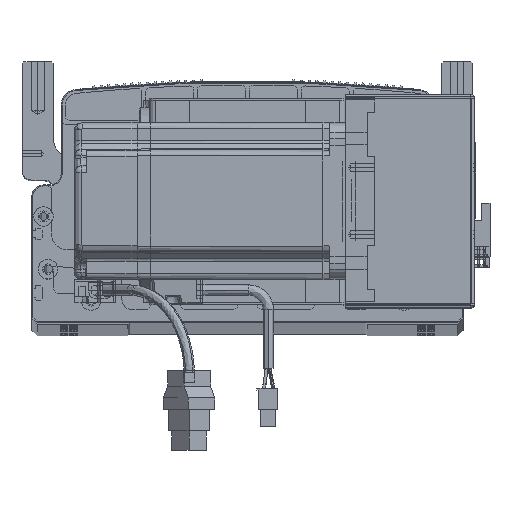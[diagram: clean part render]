
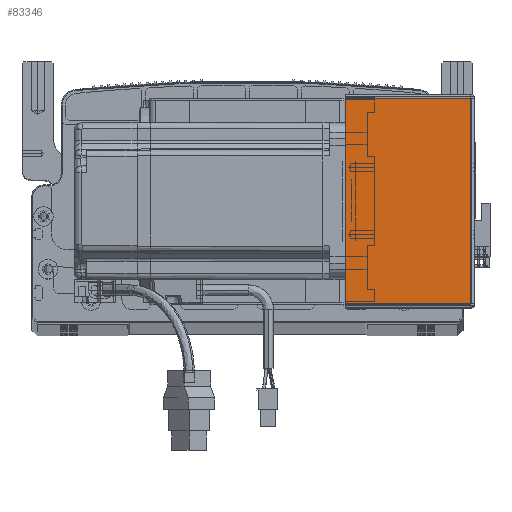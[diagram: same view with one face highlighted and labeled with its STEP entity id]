
A CAD part, top view. The second image highlights one B-rep face of the part: STEP entity #83346.
In plain terms, the highlighted planar face has unit normal (0, 0, 1) as drawn and (0, 0, -1) by its records, which use the part's own axes.
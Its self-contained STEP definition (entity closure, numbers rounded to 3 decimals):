
#1449 = CARTESIAN_POINT ( 'NONE',  ( 64.5, 0.707, -205.5 ) ) ;
#1961 = VECTOR ( 'NONE', #78269, 1000. ) ;
#2019 = EDGE_LOOP ( 'NONE', ( #6741, #19261, #61588, #25781 ) ) ;
#5717 = DIRECTION ( 'NONE',  ( 0., -1., 0. ) ) ;
#6741 = ORIENTED_EDGE ( 'NONE', *, *, #37182, .F. ) ;
#10015 = CARTESIAN_POINT ( 'NONE',  ( 0., 0., -205.5 ) ) ;
#11302 = LINE ( 'NONE', #75741, #81723 ) ;
#14641 = VERTEX_POINT ( 'NONE', #41648 ) ;
#18943 = CARTESIAN_POINT ( 'NONE',  ( 0.737, 0.707, -205.5 ) ) ;
#19261 = ORIENTED_EDGE ( 'NONE', *, *, #100798, .T. ) ;
#25781 = ORIENTED_EDGE ( 'NONE', *, *, #87977, .F. ) ;
#25905 = PLANE ( 'NONE',  #61629 ) ;
#26232 = DIRECTION ( 'NONE',  ( 1., 0., 0. ) ) ;
#34546 = VERTEX_POINT ( 'NONE', #57407 ) ;
#37182 = EDGE_CURVE ( 'NONE', #34546, #47554, #11302, .T. ) ;
#38266 = CARTESIAN_POINT ( 'NONE',  ( 0., 0.707, -205.5 ) ) ;
#41648 = CARTESIAN_POINT ( 'NONE',  ( 64.5, 105.293, -205.5 ) ) ;
#43738 = FACE_OUTER_BOUND ( 'NONE', #2019, .T. ) ;
#47554 = VERTEX_POINT ( 'NONE', #18943 ) ;
#49464 = LINE ( 'NONE', #64798, #54379 ) ;
#54379 = VECTOR ( 'NONE', #79301, 1000. ) ;
#57407 = CARTESIAN_POINT ( 'NONE',  ( 0.737, 105.293, -205.5 ) ) ;
#61588 = ORIENTED_EDGE ( 'NONE', *, *, #85694, .T. ) ;
#61629 = AXIS2_PLACEMENT_3D ( 'NONE', #10015, #81115, #26232 ) ;
#64798 = CARTESIAN_POINT ( 'NONE',  ( 0., 105.293, -205.5 ) ) ;
#70286 = LINE ( 'NONE', #74019, #92497 ) ;
#74019 = CARTESIAN_POINT ( 'NONE',  ( 64.5, 0., -205.5 ) ) ;
#75741 = CARTESIAN_POINT ( 'NONE',  ( 0.737, 0., -205.5 ) ) ;
#78269 = DIRECTION ( 'NONE',  ( 1., 0., 0. ) ) ;
#79301 = DIRECTION ( 'NONE',  ( 1., 0., 0. ) ) ;
#80982 = LINE ( 'NONE', #38266, #1961 ) ;
#81115 = DIRECTION ( 'NONE',  ( 0., 0., 1. ) ) ;
#81723 = VECTOR ( 'NONE', #5717, 1000. ) ;
#83346 = ADVANCED_FACE ( 'NONE', ( #43738 ), #25905, .F. ) ;
#85694 = EDGE_CURVE ( 'NONE', #14641, #101292, #70286, .T. ) ;
#87977 = EDGE_CURVE ( 'NONE', #47554, #101292, #80982, .T. ) ;
#92497 = VECTOR ( 'NONE', #97086, 1000. ) ;
#97086 = DIRECTION ( 'NONE',  ( 0., -1., 0. ) ) ;
#100798 = EDGE_CURVE ( 'NONE', #34546, #14641, #49464, .T. ) ;
#101292 = VERTEX_POINT ( 'NONE', #1449 ) ;
